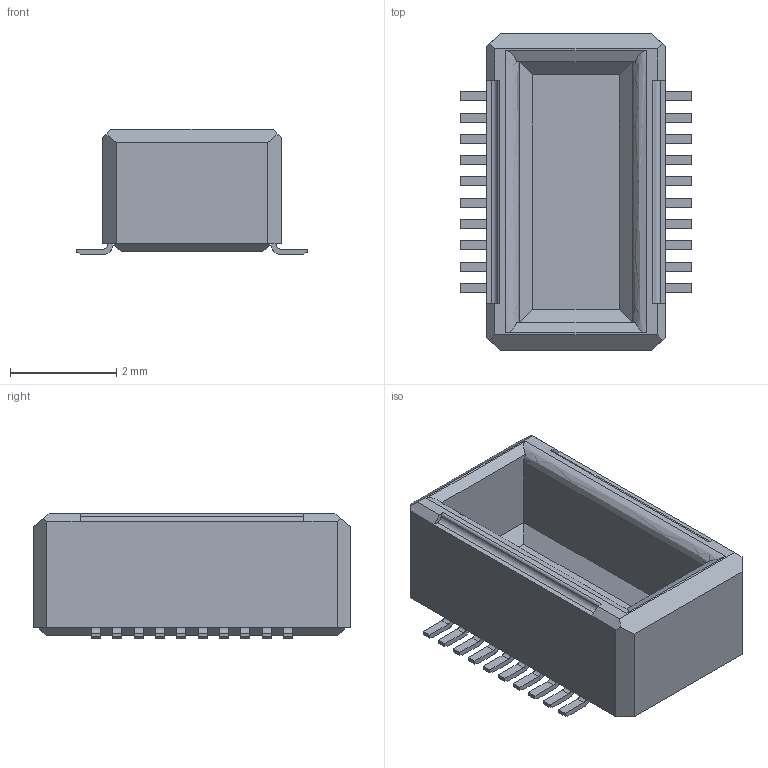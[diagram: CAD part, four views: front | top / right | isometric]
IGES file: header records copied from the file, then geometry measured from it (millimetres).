
Start section: SolidWorks IGES file using analytic representation for surfaces
Global section: file name: N:\Kamikawa_Hisako\2022_後期_KK活動\5846_OK\000_PLUG_OK\MOD\MOD\105846020000.IGS; native system: SolidWorks 2021; preprocessor: SolidWorks 2021; author: user; date: 230302.150845; units: millimetre
Bounding box: 4.35 x 5.97 x 2.35 mm (x, y, z)
Surface area: 108.8 mm2 (no closed solid volume)
Topology: 0 solids, 0 shells, 244 faces, 1596 edges, 1596 vertices
Faces by surface type: bspline 178, revolution 66
